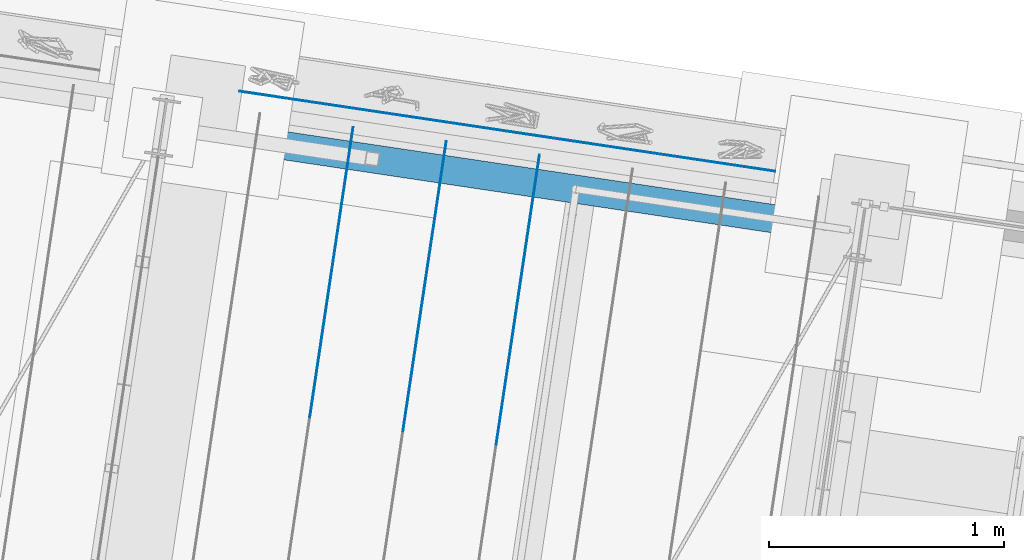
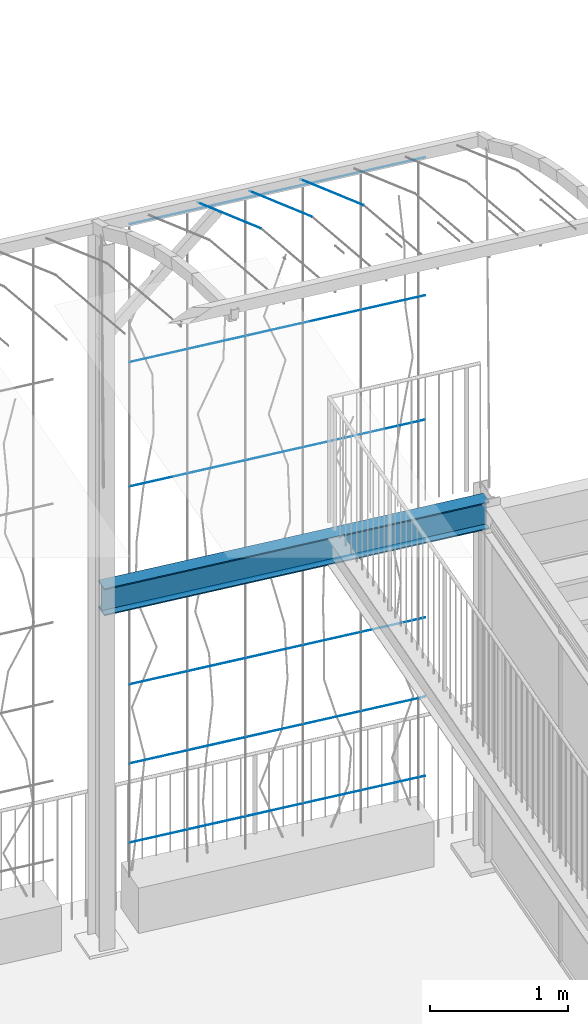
# One storey, part 41 of 143: 10 members, 1 beam, 2 elements without a shape of their own.
"""IFC4 building model written with IfcOpenShell, lengths in metres."""

from ifc_helpers import new_model, si_unit, direction, frame, origin_with_axes, place, context, subcontext, project, spatial, circle, i_section, extrude, material, material_profile, profile_set, profile_usage, type_object, element, aggregate, save


model = new_model("IFC4")

# Units and contexts
model_context = context("Model", 3, precision=1e-05, world=origin_with_axes(), true_north=direction((0.0, 1.0)))
body_context = subcontext(model_context, "Body", "Model", "MODEL_VIEW")
ifc_project = project(units=[si_unit("VOLUMEUNIT", "CUBIC_METRE"), si_unit("LENGTHUNIT", "METRE"), si_unit("AREAUNIT", "SQUARE_METRE")], contexts=[model_context])

# Site, building, storey
site_placement = place(None, origin_with_axes())
site = spatial("IfcSite", under=ifc_project, at=site_placement, Name="Lares · Rua das Mercês · artigo 4771")
building_placement = place(site_placement, frame((15.0, 9.7, 15.8), z_axis=(0.0, 0.0, 1.0), x_axis=(0.989015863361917, -0.147809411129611, 0.0)))
building = spatial("IfcBuilding", under=site, at=building_placement, Name="Casa Sobreposta")
storey_placement = place(building_placement, origin_with_axes())
storey = spatial("IfcBuildingStorey", under=building, at=storey_placement, Name="00 · Habitação e estacionamento", Elevation=15.8)

# Assembly, beam, members
assembly_1_placement = place(storey_placement, origin_with_axes())
assembly_1 = element("IfcElementAssembly", 1, at=assembly_1_placement, inside=storey, Name="Pérgola · prolongamento da estufa 6 m", ObjectType="PERGOLA_GREENHOUSE_EXTENSION", PredefinedType="USERDEFINED")
ifc_material_1 = material(Name="Aço pintado / Stahl lackiert", Category="steel")
ifc_material_profile_1 = material_profile(ifc_material_1, i_section(OverallWidth=0.12, OverallDepth=0.24, WebThickness=0.0062, FlangeThickness=0.0098))
ifc_profile_set_1 = profile_set([ifc_material_profile_1], Name="IPE240")
ifc_profile_usage_1 = profile_usage(ifc_profile_set_1)
beam_type = type_object("IfcBeamType", Name="IPE240 / steel", PredefinedType="NOTDEFINED", material=ifc_profile_set_1)
beam_placement = place(assembly_1_placement, frame((-3.0, 6.28, 3.02), z_axis=(1.0, 0.0, 0.0), x_axis=(0.0, -1.0, 0.0)))
beam = element("IfcBeam", 2, at=beam_placement, type_object=beam_type, material=ifc_profile_usage_1, Name="Varanda · viga de bordo", context=body_context, shape_type="SweptSolid", body=[
    extrude(i_section(OverallWidth=0.12, OverallDepth=0.24, WebThickness=0.0062, FlangeThickness=0.0098), origin_with_axes(), (0.0, 0.0, 1.0), 3.0),
])
ifc_material_2 = material(Name="Aço galvanizado / Stahl verzinkt", Category="steel")
ifc_material_profile_2 = material_profile(ifc_material_2, circle(Radius=0.002))
ifc_profile_set_2 = profile_set([ifc_material_profile_2], Name="D0.004")
ifc_profile_usage_2 = profile_usage(ifc_profile_set_2)
member_type = type_object("IfcMemberType", Name="D0.004 / galvanized", PredefinedType="NOTDEFINED", material=ifc_profile_set_2)
member_1_placement = place(assembly_1_placement, frame((-2.2, 5.15650506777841, 6.8157371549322), z_axis=(0.0, 0.905864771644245, -0.423567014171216), x_axis=(1.0, 0.0, 0.0)))
member_1 = element("IfcMember", 3, at=member_1_placement, type_object=member_type, material=ifc_profile_usage_2, Name="Pérgola · fio para trepadeiras", context=body_context, shape_type="SweptSolid", body=[
    extrude(circle(Radius=0.002), origin_with_axes(), (0.0, 0.0, 1.0), 1.3727158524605),
])
ifc_profile_usage_3 = profile_usage(ifc_profile_set_2)
member_2_placement = place(assembly_1_placement, frame((-1.8, 5.15650506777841, 6.8157371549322), z_axis=(0.0, 0.905864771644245, -0.423567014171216), x_axis=(1.0, 0.0, 0.0)))
member_2 = element("IfcMember", 4, at=member_2_placement, type_object=member_type, material=ifc_profile_usage_3, Name="Pérgola · fio para trepadeiras", context=body_context, shape_type="SweptSolid", body=[
    extrude(circle(Radius=0.002), origin_with_axes(), (0.0, 0.0, 1.0), 1.3727158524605),
])
ifc_profile_usage_4 = profile_usage(ifc_profile_set_2)
member_3_placement = place(assembly_1_placement, frame((-1.4, 5.15650506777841, 6.8157371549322), z_axis=(0.0, 0.905864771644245, -0.423567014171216), x_axis=(1.0, 0.0, 0.0)))
member_3 = element("IfcMember", 5, at=member_3_placement, type_object=member_type, material=ifc_profile_usage_4, Name="Pérgola · fio para trepadeiras", context=body_context, shape_type="SweptSolid", body=[
    extrude(circle(Radius=0.002), origin_with_axes(), (0.0, 0.0, 1.0), 1.3727158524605),
])
aggregate(assembly_1, [member_1, member_2, member_3, beam])

# Assembly, members
assembly_2_placement = place(storey_placement, origin_with_axes())
assembly_2 = element("IfcElementAssembly", 6, at=assembly_2_placement, inside=storey, Name="Fachada sul e pátio · estrutura e trepadeiras", ObjectType="LIVING_SHADE_TRELLIS", PredefinedType="USERDEFINED")
ifc_profile_usage_5 = profile_usage(ifc_profile_set_2)
member_4_placement = place(assembly_2_placement, frame((-2.7, 6.48, 0.65), z_axis=(1.0, 0.0, 0.0), x_axis=(0.0, -1.0, 0.0)))
member_4 = element("IfcMember", 7, at=member_4_placement, type_object=member_type, material=ifc_profile_usage_5, Name="Trepadeiras · fio horizontal", context=body_context, shape_type="SweptSolid", body=[
    extrude(circle(Radius=0.002), origin_with_axes(), (0.0, 0.0, 1.0), 2.3),
])
ifc_profile_usage_6 = profile_usage(ifc_profile_set_2)
member_5_placement = place(assembly_2_placement, frame((-2.7, 6.48, 1.35), z_axis=(1.0, 0.0, 0.0), x_axis=(0.0, -1.0, 0.0)))
member_5 = element("IfcMember", 8, at=member_5_placement, type_object=member_type, material=ifc_profile_usage_6, Name="Trepadeiras · fio horizontal", context=body_context, shape_type="SweptSolid", body=[
    extrude(circle(Radius=0.002), origin_with_axes(), (0.0, 0.0, 1.0), 2.3),
])
ifc_profile_usage_7 = profile_usage(ifc_profile_set_2)
member_6_placement = place(assembly_2_placement, frame((-2.7, 6.48, 2.05), z_axis=(1.0, 0.0, 0.0), x_axis=(0.0, -1.0, 0.0)))
member_6 = element("IfcMember", 9, at=member_6_placement, type_object=member_type, material=ifc_profile_usage_7, Name="Trepadeiras · fio horizontal", context=body_context, shape_type="SweptSolid", body=[
    extrude(circle(Radius=0.002), origin_with_axes(), (0.0, 0.0, 1.0), 2.3),
])
ifc_profile_usage_8 = profile_usage(ifc_profile_set_2)
member_7_placement = place(assembly_2_placement, frame((-2.7, 6.48, 2.75), z_axis=(1.0, 0.0, 0.0), x_axis=(0.0, -1.0, 0.0)))
member_7 = element("IfcMember", 10, at=member_7_placement, type_object=member_type, material=ifc_profile_usage_8, Name="Trepadeiras · fio horizontal", context=body_context, shape_type="SweptSolid", body=[
    extrude(circle(Radius=0.002), origin_with_axes(), (0.0, 0.0, 1.0), 2.3),
])
ifc_profile_usage_9 = profile_usage(ifc_profile_set_2)
member_8_placement = place(assembly_2_placement, frame((-2.7, 6.48, 3.8), z_axis=(1.0, 0.0, 0.0), x_axis=(0.0, -1.0, 0.0)))
member_8 = element("IfcMember", 11, at=member_8_placement, type_object=member_type, material=ifc_profile_usage_9, Name="Trepadeiras · fio horizontal", context=body_context, shape_type="SweptSolid", body=[
    extrude(circle(Radius=0.002), origin_with_axes(), (0.0, 0.0, 1.0), 2.3),
])
ifc_profile_usage_10 = profile_usage(ifc_profile_set_2)
member_9_placement = place(assembly_2_placement, frame((-2.7, 6.48, 4.9), z_axis=(1.0, 0.0, 0.0), x_axis=(0.0, -1.0, 0.0)))
member_9 = element("IfcMember", 12, at=member_9_placement, type_object=member_type, material=ifc_profile_usage_10, Name="Trepadeiras · fio horizontal", context=body_context, shape_type="SweptSolid", body=[
    extrude(circle(Radius=0.002), origin_with_axes(), (0.0, 0.0, 1.0), 2.3),
])
ifc_profile_usage_11 = profile_usage(ifc_profile_set_2)
member_10_placement = place(assembly_2_placement, frame((-2.7, 6.48, 6.12), z_axis=(1.0, 0.0, 0.0), x_axis=(0.0, -1.0, 0.0)))
member_10 = element("IfcMember", 13, at=member_10_placement, type_object=member_type, material=ifc_profile_usage_11, Name="Trepadeiras · fio horizontal", context=body_context, shape_type="SweptSolid", body=[
    extrude(circle(Radius=0.002), origin_with_axes(), (0.0, 0.0, 1.0), 2.3),
])
aggregate(assembly_2, [member_4, member_5, member_6, member_7, member_8, member_9, member_10])

save(model, "model.ifc")
